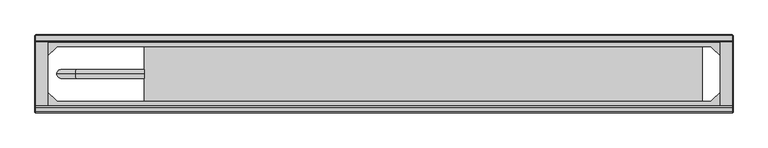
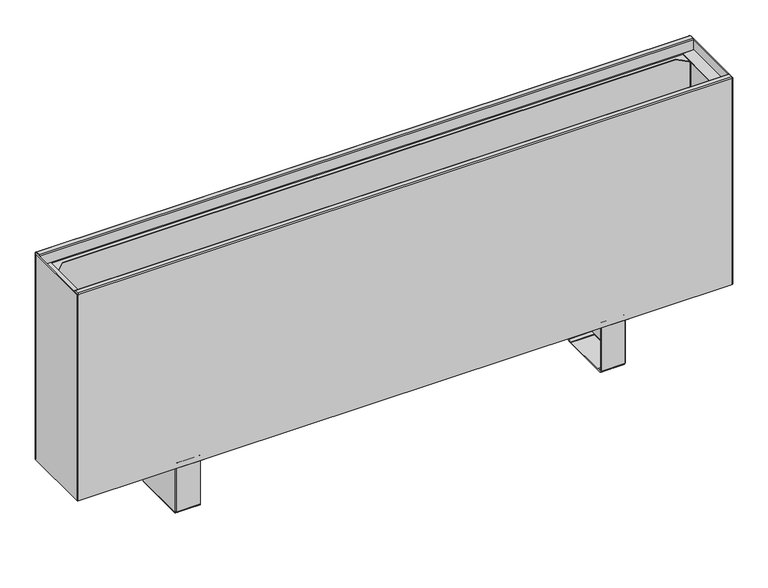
"""IFC4 building model written with IfcOpenShell, lengths in millimetres: proxy geometry, TECHNO_Конвектор напольный_Vita KPZ 135 : KPZ 135-400-2."""

from ifc_helpers import new_model, si_unit, point, frame, origin, place, context, project, spatial, polyline, circle_curve, ellipse_curve, trimmed, outline, extrude, source, transform, mapped, element, save
from ifc_brep_helpers import plane_surface, cylinder_surface, revolved_surface, advanced_brep


def mechanical_equipment_25f90fc9(model_context):
    return source(origin(), model_context, "Body", "SolidModel", [
        advanced_brep(
        [(409.7, -116.8, 1.5), (409.7, -114.5, 3.8), (409.7, -114.5, 4.9), (409.7, -116.0, 4.9), (409.7, -116.0, 3.8), (409.7, -116.8, 3.0), (409.7, -124.5, 3.0), (409.7, -124.5, 1.5), (409.7, -117.6, 1.5), (409.7, -114.5, 97.7), (409.7, -113.7, 98.5), (409.7, -101.0, 98.5), (409.7, -101.0, 100.0), (409.7, -113.7, 100.0), (409.7, -116.0, 97.7), (409.7, -116.0, 95.5), (409.7, -114.5, 95.5), (409.7, -220.5, 3.8), (409.7, -218.2, 1.5), (409.7, -217.4, 1.5), (409.7, -210.5, 1.5), (409.7, -210.5, 3.0), (409.7, -218.2, 3.0), (409.7, -219.0, 3.8), (409.7, -219.0, 4.9), (409.7, -220.5, 4.9), (409.7, -219.0, 97.7), (409.7, -221.3, 100.0), (409.7, -234.0, 100.0), (409.7, -234.0, 98.5), (409.7, -221.3, 98.5), (409.7, -220.5, 97.7), (409.7, -220.5, 95.5), (409.7, -219.0, 95.5), (367.0, -220.5, 97.7), (367.0, -221.3, 98.5), (367.0, -234.0, 98.5), (367.0, -234.0, 100.0), (367.0, -221.3, 100.0), (367.0, -219.0, 97.7), (367.0, -219.0, 3.8), (367.0, -218.2, 3.0), (367.0, -210.5, 3.0), (367.0, -210.5, 1.5), (367.0, -124.5, 1.5), (367.0, -124.5, 3.0), (367.0, -116.8, 3.0), (367.0, -116.0, 3.8), (367.0, -116.0, 97.7), (367.0, -113.7, 100.0), (367.0, -101.0, 100.0), (367.0, -101.0, 98.5), (367.0, -113.7, 98.5), (367.0, -114.5, 97.7), (367.0, -114.5, 3.8), (367.0, -116.8, 1.5), (367.0, -117.6, 1.5), (367.0, -117.6, 0.0), (367.0, -217.4, 0.0), (367.0, -217.4, 1.5), (367.0, -218.2, 1.5), (367.0, -220.5, 3.8), (410.5, -116.8, 95.5), (410.5, -218.2, 95.5), (412.0, -218.2, 95.5), (412.0, -116.8, 95.5), (412.0, -116.8, 4.9), (412.0, -117.6, 4.9), (410.5, -117.6, 4.9), (410.5, -116.8, 4.9), (410.5, -218.2, 4.9), (410.5, -217.4, 4.9), (412.0, -217.4, 4.9), (412.0, -218.2, 4.9), (410.5, -117.6, 2.3), (410.5, -217.4, 2.3), (412.0, -217.4, 2.3), (412.0, -117.6, 2.3), (409.7, -117.6, 0.0), (409.7, -217.4, 0.0)],
        [
            (0, 1, circle_curve(frame((409.7, -116.8, 3.8), z_axis=(1.0, 0.0, 0.0), x_axis=(0.0, -1.0, 0.0)), 2.3)),
            (1, 2),
            (2, 3),
            (3, 4),
            (4, 5, circle_curve(frame((409.7, -116.8, 3.8), z_axis=(-1.0, 0.0, 0.0), x_axis=(0.0, -1.0, 0.0)), 0.8)),
            (5, 6),
            (6, 7),
            (7, 8),
            (8, 0),
            (9, 10, circle_curve(frame((409.7, -113.7, 97.7), z_axis=(-1.0, 0.0, 0.0), x_axis=(0.0, -1.0, 0.0)), 0.8)),
            (10, 11),
            (11, 12),
            (12, 13),
            (13, 14, circle_curve(frame((409.7, -113.7, 97.7), z_axis=(1.0, 0.0, 0.0), x_axis=(0.0, -1.0, 0.0)), 2.3)),
            (14, 15),
            (15, 16),
            (16, 9),
            (17, 18, circle_curve(frame((409.7, -218.2, 3.8), z_axis=(1.0, 0.0, 0.0), x_axis=(0.0, -1.0, 0.0)), 2.3)),
            (18, 19),
            (19, 20),
            (20, 21),
            (21, 22),
            (22, 23, circle_curve(frame((409.7, -218.2, 3.8), z_axis=(-1.0, 0.0, 0.0), x_axis=(0.0, -1.0, 0.0)), 0.8)),
            (23, 24),
            (24, 25),
            (25, 17),
            (26, 27, circle_curve(frame((409.7, -221.3, 97.7), z_axis=(1.0, 0.0, 0.0), x_axis=(0.0, -1.0, 0.0)), 2.3)),
            (27, 28),
            (28, 29),
            (29, 30),
            (30, 31, circle_curve(frame((409.7, -221.3, 97.7), z_axis=(-1.0, 0.0, 0.0), x_axis=(0.0, -1.0, 0.0)), 0.8)),
            (31, 32),
            (32, 33),
            (33, 26),
            (34, 35, circle_curve(frame((367.0, -221.3, 97.7), z_axis=(1.0, 0.0, 0.0), x_axis=(0.0, -1.0, 0.0)), 0.8)),
            (35, 36),
            (36, 37),
            (37, 38),
            (38, 39, circle_curve(frame((367.0, -221.3, 97.7), z_axis=(-1.0, 0.0, 0.0), x_axis=(0.0, -1.0, 0.0)), 2.3)),
            (39, 40),
            (40, 41, circle_curve(frame((367.0, -218.2, 3.8), z_axis=(1.0, 0.0, 0.0), x_axis=(0.0, -1.0, 0.0)), 0.8)),
            (41, 42),
            (42, 43),
            (43, 44),
            (44, 45),
            (45, 46),
            (46, 47, circle_curve(frame((367.0, -116.8, 3.8), z_axis=(1.0, 0.0, 0.0), x_axis=(0.0, -1.0, 0.0)), 0.8)),
            (47, 48),
            (48, 49, circle_curve(frame((367.0, -113.7, 97.7), z_axis=(-1.0, 0.0, 0.0), x_axis=(0.0, -1.0, 0.0)), 2.3)),
            (49, 50),
            (50, 51),
            (51, 52),
            (52, 53, circle_curve(frame((367.0, -113.7, 97.7), z_axis=(1.0, 0.0, 0.0), x_axis=(0.0, -1.0, 0.0)), 0.8)),
            (53, 54),
            (54, 55, circle_curve(frame((367.0, -116.8, 3.8), z_axis=(-1.0, 0.0, 0.0), x_axis=(0.0, -1.0, 0.0)), 2.3)),
            (55, 56),
            (56, 57),
            (57, 58),
            (58, 59),
            (59, 60),
            (60, 61, circle_curve(frame((367.0, -218.2, 3.8), z_axis=(-1.0, 0.0, 0.0), x_axis=(0.0, -1.0, 0.0)), 2.3)),
            (61, 34),
            (30, 35),
            (34, 31),
            (29, 36),
            (28, 37),
            (27, 38),
            (26, 39),
            (33, 24),
            (23, 40),
            (22, 41),
            (5, 46),
            (45, 6),
            (4, 47),
            (3, 15),
            (14, 48),
            (13, 49),
            (12, 50),
            (11, 51),
            (10, 52),
            (9, 53),
            (16, 2),
            (1, 54),
            (0, 55),
            (8, 56),
            (17, 61),
            (60, 18),
            (25, 32),
            (21, 42),
            (20, 43),
            (59, 19),
            (44, 7),
            (15, 62, circle_curve(frame((409.7, -116.8, 95.5), z_axis=(0.0, 0.0, -1.0), x_axis=(-1.0, 0.0, 0.0)), 0.8)),
            (62, 63),
            (63, 33, circle_curve(frame((409.7, -218.2, 95.5), z_axis=(0.0, 0.0, -1.0), x_axis=(-1.0, 0.0, 0.0)), 0.8)),
            (32, 64, circle_curve(frame((409.7, -218.2, 95.5), z_axis=(0.0, 0.0, 1.0), x_axis=(-1.0, 0.0, 0.0)), 2.3)),
            (64, 65),
            (65, 16, circle_curve(frame((409.7, -116.8, 95.5), z_axis=(0.0, 0.0, 1.0), x_axis=(-1.0, 0.0, 0.0)), 2.3)),
            (2, 66, circle_curve(frame((409.7, -116.8, 4.9), z_axis=(0.0, 0.0, -1.0), x_axis=(-1.0, 0.0, 0.0)), 2.3)),
            (66, 67),
            (67, 68),
            (68, 69),
            (69, 3, circle_curve(frame((409.7, -116.8, 4.9), z_axis=(0.0, 0.0, 1.0), x_axis=(-1.0, 0.0, 0.0)), 0.8)),
            (24, 70, circle_curve(frame((409.7, -218.2, 4.9), z_axis=(0.0, 0.0, 1.0), x_axis=(-1.0, 0.0, 0.0)), 0.8)),
            (70, 71),
            (71, 72),
            (72, 73),
            (73, 25, circle_curve(frame((409.7, -218.2, 4.9), z_axis=(0.0, 0.0, -1.0), x_axis=(-1.0, 0.0, 0.0)), 2.3)),
            (69, 62),
            (68, 74),
            (74, 75),
            (75, 71),
            (70, 63),
            (64, 73),
            (72, 76),
            (76, 77),
            (77, 67),
            (66, 65),
            (8, 74, circle_curve(frame((409.7, -117.6, 2.3), z_axis=(0.0, -1.0, 0.0), x_axis=(-1.0, 0.0, 0.0)), 0.8)),
            (77, 78, circle_curve(frame((409.7, -117.6, 2.3), z_axis=(0.0, 1.0, 0.0), x_axis=(-1.0, 0.0, 0.0)), 2.3)),
            (78, 57),
            (58, 79),
            (79, 76, circle_curve(frame((409.7, -217.4, 2.3), z_axis=(0.0, -1.0, 0.0), x_axis=(-1.0, 0.0, 0.0)), 2.3)),
            (75, 19, circle_curve(frame((409.7, -217.4, 2.3), z_axis=(0.0, 1.0, 0.0), x_axis=(-1.0, 0.0, 0.0)), 0.8)),
            (20, 7),
            (79, 78),
        ],
        [
            plane_surface(frame((409.7, -222.1, 97.7), z_axis=(1.0, 0.0, 0.0), x_axis=(0.0, 0.0, 1.0))),
            plane_surface(frame((367.0, -222.1, 97.7), z_axis=(-1.0, 0.0, 0.0), x_axis=(0.0, 0.0, -1.0))),
            revolved_surface(polyline([(409.7, -222.10000000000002, 97.7), (367.0, -222.10000000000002, 97.7)]), (409.7, -221.3, 97.7), (1.0, 0.0, 0.0)),
            plane_surface(frame((367.0, -221.3, 98.5), z_axis=(0.0, 0.0, -1.0), x_axis=(1.0, 0.0, 0.0))),
            plane_surface(frame((367.0, -234.0, 98.5), z_axis=(0.0, -1.0, 0.0), x_axis=(1.0, 0.0, 0.0))),
            plane_surface(frame((367.0, -234.0, 100.0), z_axis=(0.0, 0.0, 1.0), x_axis=(1.0, 0.0, 0.0))),
            cylinder_surface(frame((409.7, -221.3, 97.7), z_axis=(-1.0, 0.0, 0.0), x_axis=(0.0, -1.0, 0.0)), 2.3),
            plane_surface(frame((367.0, -219.0, 97.7), z_axis=(0.0, 1.0, 0.0), x_axis=(1.0, 0.0, 0.0))),
            revolved_surface(polyline([(409.7, -219.0, 3.8), (367.0, -219.0, 3.8)]), (409.7, -218.2, 3.8), (1.0, 0.0, 0.0)),
            plane_surface(frame((367.0, -124.5, 3.0), z_axis=(0.0, 0.0, 1.0), x_axis=(1.0, 0.0, 0.0))),
            revolved_surface(polyline([(409.7, -117.6, 3.8), (367.0, -117.6, 3.8)]), (412.0, -116.8, 3.8), (1.0, 0.0, 0.0)),
            plane_surface(frame((367.0, -116.0, 3.8), z_axis=(0.0, -1.0, 0.0), x_axis=(1.0, 0.0, 0.0))),
            cylinder_surface(frame((412.0, -113.7, 97.7), z_axis=(-1.0, 0.0, 0.0), x_axis=(0.0, -1.0, 0.0)), 2.3),
            plane_surface(frame((367.0, -113.7, 100.0), z_axis=(0.0, 0.0, 1.0), x_axis=(1.0, 0.0, 0.0))),
            plane_surface(frame((367.0, -101.0, 100.0), z_axis=(0.0, 1.0, 0.0), x_axis=(1.0, 0.0, 0.0))),
            plane_surface(frame((367.0, -101.0, 98.5), z_axis=(0.0, 0.0, -1.0), x_axis=(1.0, 0.0, 0.0))),
            revolved_surface(polyline([(409.7, -114.5, 97.7), (367.0, -114.5, 97.7)]), (412.0, -113.7, 97.7), (1.0, 0.0, 0.0)),
            plane_surface(frame((367.0, -114.5, 97.7), z_axis=(0.0, 1.0, 0.0), x_axis=(1.0, 0.0, 0.0))),
            cylinder_surface(frame((412.0, -116.8, 3.8), z_axis=(-1.0, 0.0, 0.0), x_axis=(0.0, -1.0, 0.0)), 2.3),
            plane_surface(frame((367.0, -116.8, 1.5), z_axis=(0.0, 0.0, -1.0), x_axis=(1.0, 0.0, 0.0))),
            cylinder_surface(frame((409.7, -218.2, 3.8), z_axis=(-1.0, 0.0, 0.0), x_axis=(0.0, -1.0, 0.0)), 2.3),
            plane_surface(frame((367.0, -220.5, 3.8), z_axis=(0.0, -1.0, 0.0), x_axis=(1.0, 0.0, 0.0))),
            plane_surface(frame((367.0, -218.2, 3.0), z_axis=(0.0, 0.0, 1.0), x_axis=(1.0, 0.0, 0.0))),
            plane_surface(frame((367.0, -210.5, 3.0), z_axis=(0.0, 1.0, 0.0), x_axis=(1.0, 0.0, 0.0))),
            plane_surface(frame((367.0, -210.5, 1.5), z_axis=(0.0, 0.0, -1.0), x_axis=(1.0, 0.0, 0.0))),
            plane_surface(frame((367.0, -124.5, 1.5), z_axis=(0.0, -1.0, 0.0), x_axis=(1.0, 0.0, 0.0))),
            plane_surface(frame((409.7, -116.0, 95.5), z_axis=(0.0, 0.0, 1.0), x_axis=(0.0, -1.0, 0.0))),
            plane_surface(frame((409.7, -116.0, 4.9), z_axis=(0.0, 0.0, -1.0), x_axis=(0.0, 1.0, 0.0))),
            revolved_surface(polyline([(408.9, -116.8, 4.9), (408.9, -116.8, 95.5)]), (409.7, -116.8, 4.9), (0.0, 0.0, -1.0)),
            plane_surface(frame((410.5, -116.8, 95.5), z_axis=(-1.0, 0.0, 0.0), x_axis=(0.0, 0.0, -1.0))),
            plane_surface(frame((412.0, -117.6, 95.5), z_axis=(1.0, 0.0, 0.0), x_axis=(0.0, 0.0, -1.0))),
            cylinder_surface(frame((409.7, -116.8, 4.9), z_axis=(0.0, 0.0, 1.0), x_axis=(-1.0, 0.0, 0.0)), 2.3),
            cylinder_surface(frame((409.7, -218.2, 0.0), z_axis=(0.0, 0.0, 1.0), x_axis=(-1.0, 0.0, 0.0)), 2.3),
            revolved_surface(polyline([(408.9, -218.2, 4.9), (408.9, -218.2, 95.5)]), (409.7, -218.2, 0.0), (0.0, 0.0, -1.0)),
            plane_surface(frame((367.0, -117.6, 1.5), z_axis=(0.0, 1.0, 0.0), x_axis=(0.0, 0.0, 1.0))),
            plane_surface(frame((367.0, -217.4, 1.5), z_axis=(0.0, -1.0, 0.0), x_axis=(0.0, 0.0, -1.0))),
            plane_surface(frame((367.0, -117.6, 1.5), z_axis=(0.0, 0.0, 1.0), x_axis=(0.0, -1.0, 0.0))),
            revolved_surface(polyline([(408.9, -217.4, 2.3), (408.9, -117.6, 2.3)]), (409.7, -217.4, 2.3), (0.0, -1.0, 0.0)),
            cylinder_surface(frame((409.7, -217.4, 2.3), z_axis=(0.0, 1.0, 0.0), x_axis=(-1.0, 0.0, 0.0)), 2.3),
            plane_surface(frame((409.7, -117.6, 0.0), z_axis=(0.0, 0.0, -1.0), x_axis=(0.0, -1.0, 0.0))),
        ],
        [
            (0, [[1, 2, 3, 4, 5, 6, 7, 8, 9]]),
            (0, [[10, 11, 12, 13, 14, 15, 16, 17]]),
            (0, [[18, 19, 20, 21, 22, 23, 24, 25, 26]]),
            (0, [[27, 28, 29, 30, 31, 32, 33, 34]]),
            (1, [[35, 36, 37, 38, 39, 40, 41, 42, 43, 44, 45, 46, 47, 48, 49, 50, 51, 52, 53, 54, 55, 56, 57, 58, 59, 60, 61, 62]]),
            (2, [[-31, 63, -35, 64]]),
            (3, [[-30, 65, -36, -63]]),
            (4, [[-29, 66, -37, -65]]),
            (5, [[-28, 67, -38, -66]]),
            (6, [[-27, 68, -39, -67]]),
            (7, [[-40, -68, -34, 69, -24, 70]]),
            (8, [[-23, 71, -41, -70]]),
            (9, [[-6, 72, -46, 73]]),
            (10, [[-5, 74, -47, -72]]),
            (11, [[-48, -74, -4, 75, -15, 76]]),
            (12, [[-14, 77, -49, -76]]),
            (13, [[-13, 78, -50, -77]]),
            (14, [[-12, 79, -51, -78]]),
            (15, [[-11, 80, -52, -79]]),
            (16, [[-10, 81, -53, -80]]),
            (17, [[-54, -81, -17, 82, -2, 83]]),
            (18, [[-1, 84, -55, -83]]),
            (19, [[-84, -9, 85, -56]]),
            (20, [[-18, 86, -61, 87]]),
            (21, [[-62, -86, -26, 88, -32, -64]]),
            (22, [[-22, 89, -42, -71]]),
            (23, [[-21, 90, -43, -89]]),
            (24, [[-87, -60, 91, -19]]),
            (25, [[-7, -73, -45, 92]]),
            (26, [[93, 94, 95, -33, 96, 97, 98, -16]]),
            (27, [[99, 100, 101, 102, 103, -3]]),
            (27, [[104, 105, 106, 107, 108, -25]]),
            (28, [[-93, -75, -103, 109]]),
            (29, [[-94, -109, -102, 110, 111, 112, -105, 113]]),
            (30, [[-97, 114, -107, 115, 116, 117, -100, 118]]),
            (31, [[-98, -118, -99, -82]]),
            (32, [[-96, -88, -108, -114]]),
            (33, [[-95, -113, -104, -69]]),
            (34, [[-57, -85, 119, -110, -101, -117, 120, 121]]),
            (35, [[122, 123, -115, -106, -112, 124, -91, -59]]),
            (36, [[125, -92, -44, -90]]),
            (37, [[-119, -8, -125, -20, -124, -111]]),
            (38, [[-120, -116, -123, 126]]),
            (39, [[-121, -126, -122, -58]]),
        ],
    ),
        advanced_brep(
        [(-409.7, -218.2, 1.5), (-409.7, -220.5, 3.8), (-409.7, -220.5, 4.9), (-409.7, -219.0, 4.9), (-409.7, -219.0, 3.8), (-409.7, -218.2, 3.0), (-409.7, -210.5, 3.0), (-409.7, -210.5, 1.5), (-409.7, -217.4, 1.5), (-409.7, -220.5, 97.7), (-409.7, -221.3, 98.5), (-409.7, -234.0, 98.5), (-409.7, -234.0, 100.0), (-409.7, -221.3, 100.0), (-409.7, -219.0, 97.7), (-409.7, -219.0, 95.5), (-409.7, -220.5, 95.5), (-409.7, -114.5, 3.8), (-409.7, -116.8, 1.5), (-409.7, -117.6, 1.5), (-409.7, -124.5, 1.5), (-409.7, -124.5, 3.0), (-409.7, -116.8, 3.0), (-409.7, -116.0, 3.8), (-409.7, -116.0, 4.9), (-409.7, -114.5, 4.9), (-409.7, -116.0, 97.7), (-409.7, -113.7, 100.0), (-409.7, -101.0, 100.0), (-409.7, -101.0, 98.5), (-409.7, -113.7, 98.5), (-409.7, -114.5, 97.7), (-409.7, -114.5, 95.5), (-409.7, -116.0, 95.5), (-367.0, -114.5, 97.7), (-367.0, -113.7, 98.5), (-367.0, -101.0, 98.5), (-367.0, -101.0, 100.0), (-367.0, -113.7, 100.0), (-367.0, -116.0, 97.7), (-367.0, -116.0, 3.8), (-367.0, -116.8, 3.0), (-367.0, -124.5, 3.0), (-367.0, -124.5, 1.5), (-367.0, -210.5, 1.5), (-367.0, -210.5, 3.0), (-367.0, -218.2, 3.0), (-367.0, -219.0, 3.8), (-367.0, -219.0, 97.7), (-367.0, -221.3, 100.0), (-367.0, -234.0, 100.0), (-367.0, -234.0, 98.5), (-367.0, -221.3, 98.5), (-367.0, -220.5, 97.7), (-367.0, -220.5, 3.8), (-367.0, -218.2, 1.5), (-367.0, -217.4, 1.5), (-367.0, -217.4, 0.0), (-367.0, -117.6, 0.0), (-367.0, -117.6, 1.5), (-367.0, -116.8, 1.5), (-367.0, -114.5, 3.8), (-410.5, -218.2, 95.5), (-410.5, -116.8, 95.5), (-412.0, -116.8, 95.5), (-412.0, -218.2, 95.5), (-412.0, -218.2, 4.9), (-412.0, -217.4, 4.9), (-410.5, -217.4, 4.9), (-410.5, -218.2, 4.9), (-410.5, -116.8, 4.9), (-410.5, -117.6, 4.9), (-412.0, -117.6, 4.9), (-412.0, -116.8, 4.9), (-410.5, -217.4, 2.3), (-410.5, -117.6, 2.3), (-412.0, -117.6, 2.3), (-412.0, -217.4, 2.3), (-409.7, -217.4, 0.0), (-409.7, -117.6, 0.0)],
        [
            (0, 1, circle_curve(frame((-409.7, -218.2, 3.8), z_axis=(-1.0, 0.0, 0.0), x_axis=(0.0, 1.0, 0.0)), 2.3)),
            (1, 2),
            (2, 3),
            (3, 4),
            (4, 5, circle_curve(frame((-409.7, -218.2, 3.8), z_axis=(1.0, 0.0, 0.0), x_axis=(0.0, 1.0, 0.0)), 0.8)),
            (5, 6),
            (6, 7),
            (7, 8),
            (8, 0),
            (9, 10, circle_curve(frame((-409.7, -221.3, 97.7), z_axis=(1.0, 0.0, 0.0), x_axis=(0.0, 1.0, 0.0)), 0.8)),
            (10, 11),
            (11, 12),
            (12, 13),
            (13, 14, circle_curve(frame((-409.7, -221.3, 97.7), z_axis=(-1.0, 0.0, 0.0), x_axis=(0.0, 1.0, 0.0)), 2.3)),
            (14, 15),
            (15, 16),
            (16, 9),
            (17, 18, circle_curve(frame((-409.7, -116.8, 3.8), z_axis=(-1.0, 0.0, 0.0), x_axis=(0.0, 1.0, 0.0)), 2.3)),
            (18, 19),
            (19, 20),
            (20, 21),
            (21, 22),
            (22, 23, circle_curve(frame((-409.7, -116.8, 3.8), z_axis=(1.0, 0.0, 0.0), x_axis=(0.0, 1.0, 0.0)), 0.8)),
            (23, 24),
            (24, 25),
            (25, 17),
            (26, 27, circle_curve(frame((-409.7, -113.7, 97.7), z_axis=(-1.0, 0.0, 0.0), x_axis=(0.0, 1.0, 0.0)), 2.3)),
            (27, 28),
            (28, 29),
            (29, 30),
            (30, 31, circle_curve(frame((-409.7, -113.7, 97.7), z_axis=(1.0, 0.0, 0.0), x_axis=(0.0, 1.0, 0.0)), 0.8)),
            (31, 32),
            (32, 33),
            (33, 26),
            (34, 35, circle_curve(frame((-367.0, -113.7, 97.7), z_axis=(-1.0, 0.0, 0.0), x_axis=(0.0, 1.0, 0.0)), 0.8)),
            (35, 36),
            (36, 37),
            (37, 38),
            (38, 39, circle_curve(frame((-367.0, -113.7, 97.7), z_axis=(1.0, 0.0, 0.0), x_axis=(0.0, 1.0, 0.0)), 2.3)),
            (39, 40),
            (40, 41, circle_curve(frame((-367.0, -116.8, 3.8), z_axis=(-1.0, 0.0, 0.0), x_axis=(0.0, 1.0, 0.0)), 0.8)),
            (41, 42),
            (42, 43),
            (43, 44),
            (44, 45),
            (45, 46),
            (46, 47, circle_curve(frame((-367.0, -218.2, 3.8), z_axis=(-1.0, 0.0, 0.0), x_axis=(0.0, 1.0, 0.0)), 0.8)),
            (47, 48),
            (48, 49, circle_curve(frame((-367.0, -221.3, 97.7), z_axis=(1.0, 0.0, 0.0), x_axis=(0.0, 1.0, 0.0)), 2.3)),
            (49, 50),
            (50, 51),
            (51, 52),
            (52, 53, circle_curve(frame((-367.0, -221.3, 97.7), z_axis=(-1.0, 0.0, 0.0), x_axis=(0.0, 1.0, 0.0)), 0.8)),
            (53, 54),
            (54, 55, circle_curve(frame((-367.0, -218.2, 3.8), z_axis=(1.0, 0.0, 0.0), x_axis=(0.0, 1.0, 0.0)), 2.3)),
            (55, 56),
            (56, 57),
            (57, 58),
            (58, 59),
            (59, 60),
            (60, 61, circle_curve(frame((-367.0, -116.8, 3.8), z_axis=(1.0, 0.0, 0.0), x_axis=(0.0, 1.0, 0.0)), 2.3)),
            (61, 34),
            (30, 35),
            (34, 31),
            (29, 36),
            (28, 37),
            (27, 38),
            (26, 39),
            (33, 24),
            (23, 40),
            (22, 41),
            (5, 46),
            (45, 6),
            (4, 47),
            (3, 15),
            (14, 48),
            (13, 49),
            (12, 50),
            (11, 51),
            (10, 52),
            (9, 53),
            (16, 2),
            (1, 54),
            (0, 55),
            (8, 56),
            (17, 61),
            (60, 18),
            (25, 32),
            (21, 42),
            (20, 43),
            (59, 19),
            (44, 7),
            (15, 62, circle_curve(frame((-409.7, -218.2, 95.5), z_axis=(0.0, 0.0, -1.0), x_axis=(1.0, 0.0, 0.0)), 0.8)),
            (62, 63),
            (63, 33, circle_curve(frame((-409.7, -116.8, 95.5), z_axis=(0.0, 0.0, -1.0), x_axis=(1.0, 0.0, 0.0)), 0.8)),
            (32, 64, circle_curve(frame((-409.7, -116.8, 95.5), z_axis=(0.0, 0.0, 1.0), x_axis=(1.0, 0.0, 0.0)), 2.3)),
            (64, 65),
            (65, 16, circle_curve(frame((-409.7, -218.2, 95.5), z_axis=(0.0, 0.0, 1.0), x_axis=(1.0, 0.0, 0.0)), 2.3)),
            (2, 66, circle_curve(frame((-409.7, -218.2, 4.9), z_axis=(0.0, 0.0, -1.0), x_axis=(1.0, 0.0, 0.0)), 2.3)),
            (66, 67),
            (67, 68),
            (68, 69),
            (69, 3, circle_curve(frame((-409.7, -218.2, 4.9), z_axis=(0.0, 0.0, 1.0), x_axis=(1.0, 0.0, 0.0)), 0.8)),
            (24, 70, circle_curve(frame((-409.7, -116.8, 4.9), z_axis=(0.0, 0.0, 1.0), x_axis=(1.0, 0.0, 0.0)), 0.8)),
            (70, 71),
            (71, 72),
            (72, 73),
            (73, 25, circle_curve(frame((-409.7, -116.8, 4.9), z_axis=(0.0, 0.0, -1.0), x_axis=(1.0, 0.0, 0.0)), 2.3)),
            (69, 62),
            (68, 74),
            (74, 75),
            (75, 71),
            (70, 63),
            (64, 73),
            (72, 76),
            (76, 77),
            (77, 67),
            (66, 65),
            (8, 74, circle_curve(frame((-409.7, -217.4, 2.3), z_axis=(0.0, 1.0, 0.0), x_axis=(1.0, 0.0, 0.0)), 0.8)),
            (77, 78, circle_curve(frame((-409.7, -217.4, 2.3), z_axis=(0.0, -1.0, 0.0), x_axis=(1.0, 0.0, 0.0)), 2.3)),
            (78, 57),
            (58, 79),
            (79, 76, circle_curve(frame((-409.7, -117.6, 2.3), z_axis=(0.0, 1.0, 0.0), x_axis=(1.0, 0.0, 0.0)), 2.3)),
            (75, 19, circle_curve(frame((-409.7, -117.6, 2.3), z_axis=(0.0, -1.0, 0.0), x_axis=(1.0, 0.0, 0.0)), 0.8)),
            (20, 7),
            (79, 78),
        ],
        [
            plane_surface(frame((-409.7, -112.9, 97.7), z_axis=(-1.0, 0.0, 0.0), x_axis=(0.0, 0.0, 1.0))),
            plane_surface(frame((-367.0, -112.9, 97.7), z_axis=(1.0, 0.0, 0.0), x_axis=(0.0, 0.0, -1.0))),
            revolved_surface(polyline([(-409.7, -112.9, 97.7), (-367.0, -112.9, 97.7)]), (-409.7, -113.7, 97.7), (-1.0, 0.0, 0.0)),
            plane_surface(frame((-367.0, -113.7, 98.5), z_axis=(0.0, 0.0, -1.0), x_axis=(-1.0, 0.0, 0.0))),
            plane_surface(frame((-367.0, -101.0, 98.5), z_axis=(0.0, 1.0, 0.0), x_axis=(-1.0, 0.0, 0.0))),
            plane_surface(frame((-367.0, -101.0, 100.0), z_axis=(0.0, 0.0, 1.0), x_axis=(-1.0, 0.0, 0.0))),
            cylinder_surface(frame((-409.7, -113.7, 97.7), z_axis=(1.0, 0.0, 0.0), x_axis=(0.0, 1.0, 0.0)), 2.3),
            plane_surface(frame((-367.0, -116.0, 97.7), z_axis=(0.0, -1.0, 0.0), x_axis=(-1.0, 0.0, 0.0))),
            revolved_surface(polyline([(-409.7, -116.0, 3.8), (-367.0, -116.0, 3.8)]), (-409.7, -116.8, 3.8), (-1.0, 0.0, 0.0)),
            plane_surface(frame((-367.0, -210.5, 3.0), z_axis=(0.0, 0.0, 1.0), x_axis=(-1.0, 0.0, 0.0))),
            revolved_surface(polyline([(-409.7, -217.39999999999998, 3.8), (-367.0, -217.39999999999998, 3.8)]), (-412.0, -218.2, 3.8), (-1.0, 0.0, 0.0)),
            plane_surface(frame((-367.0, -219.0, 3.8), z_axis=(0.0, 1.0, 0.0), x_axis=(-1.0, 0.0, 0.0))),
            cylinder_surface(frame((-412.0, -221.3, 97.7), z_axis=(1.0, 0.0, 0.0), x_axis=(0.0, 1.0, 0.0)), 2.3),
            plane_surface(frame((-367.0, -221.3, 100.0), z_axis=(0.0, 0.0, 1.0), x_axis=(-1.0, 0.0, 0.0))),
            plane_surface(frame((-367.0, -234.0, 100.0), z_axis=(0.0, -1.0, 0.0), x_axis=(-1.0, 0.0, 0.0))),
            plane_surface(frame((-367.0, -234.0, 98.5), z_axis=(0.0, 0.0, -1.0), x_axis=(-1.0, 0.0, 0.0))),
            revolved_surface(polyline([(-409.7, -220.5, 97.7), (-367.0, -220.5, 97.7)]), (-412.0, -221.3, 97.7), (-1.0, 0.0, 0.0)),
            plane_surface(frame((-367.0, -220.5, 97.7), z_axis=(0.0, -1.0, 0.0), x_axis=(-1.0, 0.0, 0.0))),
            cylinder_surface(frame((-412.0, -218.2, 3.8), z_axis=(1.0, 0.0, 0.0), x_axis=(0.0, 1.0, 0.0)), 2.3),
            plane_surface(frame((-367.0, -218.2, 1.5), z_axis=(0.0, 0.0, -1.0), x_axis=(-1.0, 0.0, 0.0))),
            cylinder_surface(frame((-409.7, -116.8, 3.8), z_axis=(1.0, 0.0, 0.0), x_axis=(0.0, 1.0, 0.0)), 2.3),
            plane_surface(frame((-367.0, -114.5, 3.8), z_axis=(0.0, 1.0, 0.0), x_axis=(-1.0, 0.0, 0.0))),
            plane_surface(frame((-367.0, -116.8, 3.0), z_axis=(0.0, 0.0, 1.0), x_axis=(-1.0, 0.0, 0.0))),
            plane_surface(frame((-367.0, -124.5, 3.0), z_axis=(0.0, -1.0, 0.0), x_axis=(-1.0, 0.0, 0.0))),
            plane_surface(frame((-367.0, -124.5, 1.5), z_axis=(0.0, 0.0, -1.0), x_axis=(-1.0, 0.0, 0.0))),
            plane_surface(frame((-367.0, -210.5, 1.5), z_axis=(0.0, 1.0, 0.0), x_axis=(-1.0, 0.0, 0.0))),
            plane_surface(frame((-409.7, -219.0, 95.5), z_axis=(0.0, 0.0, 1.0), x_axis=(0.0, 1.0, 0.0))),
            plane_surface(frame((-409.7, -219.0, 4.9), z_axis=(0.0, 0.0, -1.0), x_axis=(0.0, -1.0, 0.0))),
            revolved_surface(polyline([(-408.9, -218.2, 4.9), (-408.9, -218.2, 95.5)]), (-409.7, -218.2, 4.9), (0.0, 0.0, -1.0)),
            plane_surface(frame((-410.5, -218.2, 95.5), z_axis=(1.0, 0.0, 0.0), x_axis=(0.0, 0.0, -1.0))),
            plane_surface(frame((-412.0, -217.4, 95.5), z_axis=(-1.0, 0.0, 0.0), x_axis=(0.0, 0.0, -1.0))),
            cylinder_surface(frame((-409.7, -218.2, 4.9), z_axis=(0.0, 0.0, 1.0), x_axis=(1.0, 0.0, 0.0)), 2.3),
            cylinder_surface(frame((-409.7, -116.8, 0.0), z_axis=(0.0, 0.0, 1.0), x_axis=(1.0, 0.0, 0.0)), 2.3),
            revolved_surface(polyline([(-408.9, -116.8, 4.9), (-408.9, -116.8, 95.5)]), (-409.7, -116.8, 0.0), (0.0, 0.0, -1.0)),
            plane_surface(frame((-367.0, -217.4, 1.5), z_axis=(0.0, -1.0, 0.0), x_axis=(0.0, 0.0, 1.0))),
            plane_surface(frame((-367.0, -117.6, 1.5), z_axis=(0.0, 1.0, 0.0), x_axis=(0.0, 0.0, -1.0))),
            plane_surface(frame((-367.0, -217.4, 1.5), z_axis=(0.0, 0.0, 1.0), x_axis=(0.0, 1.0, 0.0))),
            revolved_surface(polyline([(-408.9, -117.6, 2.3), (-408.9, -217.4, 2.3)]), (-409.7, -117.6, 2.3), (0.0, 1.0, 0.0)),
            cylinder_surface(frame((-409.7, -117.6, 2.3), z_axis=(0.0, -1.0, 0.0), x_axis=(1.0, 0.0, 0.0)), 2.3),
            plane_surface(frame((-409.7, -217.4, 0.0), z_axis=(0.0, 0.0, -1.0), x_axis=(0.0, 1.0, 0.0))),
        ],
        [
            (0, [[1, 2, 3, 4, 5, 6, 7, 8, 9]]),
            (0, [[10, 11, 12, 13, 14, 15, 16, 17]]),
            (0, [[18, 19, 20, 21, 22, 23, 24, 25, 26]]),
            (0, [[27, 28, 29, 30, 31, 32, 33, 34]]),
            (1, [[35, 36, 37, 38, 39, 40, 41, 42, 43, 44, 45, 46, 47, 48, 49, 50, 51, 52, 53, 54, 55, 56, 57, 58, 59, 60, 61, 62]]),
            (2, [[-31, 63, -35, 64]]),
            (3, [[-30, 65, -36, -63]]),
            (4, [[-29, 66, -37, -65]]),
            (5, [[-28, 67, -38, -66]]),
            (6, [[-27, 68, -39, -67]]),
            (7, [[-40, -68, -34, 69, -24, 70]]),
            (8, [[-23, 71, -41, -70]]),
            (9, [[-6, 72, -46, 73]]),
            (10, [[-5, 74, -47, -72]]),
            (11, [[-48, -74, -4, 75, -15, 76]]),
            (12, [[-14, 77, -49, -76]]),
            (13, [[-13, 78, -50, -77]]),
            (14, [[-12, 79, -51, -78]]),
            (15, [[-11, 80, -52, -79]]),
            (16, [[-10, 81, -53, -80]]),
            (17, [[-54, -81, -17, 82, -2, 83]]),
            (18, [[-1, 84, -55, -83]]),
            (19, [[-84, -9, 85, -56]]),
            (20, [[-18, 86, -61, 87]]),
            (21, [[-62, -86, -26, 88, -32, -64]]),
            (22, [[-22, 89, -42, -71]]),
            (23, [[-21, 90, -43, -89]]),
            (24, [[-87, -60, 91, -19]]),
            (25, [[-7, -73, -45, 92]]),
            (26, [[93, 94, 95, -33, 96, 97, 98, -16]]),
            (27, [[99, 100, 101, 102, 103, -3]]),
            (27, [[104, 105, 106, 107, 108, -25]]),
            (28, [[-93, -75, -103, 109]]),
            (29, [[-94, -109, -102, 110, 111, 112, -105, 113]]),
            (30, [[-97, 114, -107, 115, 116, 117, -100, 118]]),
            (31, [[-98, -118, -99, -82]]),
            (32, [[-96, -88, -108, -114]]),
            (33, [[-95, -113, -104, -69]]),
            (34, [[-57, -85, 119, -110, -101, -117, 120, 121]]),
            (35, [[122, 123, -115, -106, -112, 124, -91, -59]]),
            (36, [[125, -92, -44, -90]]),
            (37, [[-119, -8, -125, -20, -124, -111]]),
            (38, [[-120, -116, -123, 126]]),
            (39, [[-121, -126, -122, -58]]),
        ],
    ),
        advanced_brep(
        [(-412.0, -167.5, 186.5), (-412.0, -167.5, 171.5), (-530.0, -167.5, 186.5), (-530.0, -167.5, 171.5), (-547.5, -167.5, 154.0), (-562.5, -167.5, 154.0), (-562.5, -167.5, 100.0), (-547.5, -167.5, 100.0)],
        [
            (0, 1, circle_curve(frame((-412.0, -167.5, 179.0), z_axis=(1.0, 0.0, 0.0), x_axis=(0.0, 0.0, -1.0)), 7.5)),
            (1, 0, circle_curve(frame((-412.0, -167.5, 179.0), z_axis=(1.0, 0.0, 0.0), x_axis=(0.0, 0.0, -1.0)), 7.5)),
            (0, 2),
            (2, 3, circle_curve(frame((-530.0, -167.5, 179.0), z_axis=(1.0, 0.0, 0.0), x_axis=(0.0, 0.0, -1.0)), 7.5)),
            (3, 1),
            (3, 2, circle_curve(frame((-530.0, -167.5, 179.0), z_axis=(1.0, 0.0, 0.0), x_axis=(0.0, 0.0, -1.0)), 7.5)),
            (4, 3, circle_curve(frame((-530.0, -167.5, 154.0), z_axis=(0.0, 1.0, 0.0), x_axis=(0.0, 0.0, 1.0)), 17.5)),
            (2, 5, circle_curve(frame((-530.0, -167.5, 154.0), z_axis=(0.0, -1.0, 0.0), x_axis=(0.0, 0.0, 1.0)), 32.5)),
            (5, 4, circle_curve(frame((-555.0, -167.5, 154.0), z_axis=(0.0, 0.0, 1.0), x_axis=(1.0, 0.0, 0.0)), 7.5)),
            (4, 5, circle_curve(frame((-555.0, -167.5, 154.0), z_axis=(0.0, 0.0, 1.0), x_axis=(1.0, 0.0, 0.0)), 7.5)),
            (6, 7, circle_curve(frame((-555.0, -167.5, 100.0), z_axis=(0.0, 0.0, -1.0), x_axis=(1.0, 0.0, 0.0)), 7.5)),
            (7, 6, circle_curve(frame((-555.0, -167.5, 100.0), z_axis=(0.0, 0.0, -1.0), x_axis=(1.0, 0.0, 0.0)), 7.5)),
            (5, 6),
            (7, 4),
        ],
        [
            plane_surface(frame((-412.0, -167.5, 179.0), z_axis=(1.0, 0.0, 0.0), x_axis=(0.0, -1.0, 0.0))),
            cylinder_surface(frame((-412.0, -167.5, 179.0), z_axis=(1.0, 0.0, 0.0), x_axis=(0.0, 0.0, -1.0)), 7.5),
            revolved_surface(trimmed(ellipse_curve(frame((-530.0, -167.5, 179.0), z_axis=(1.0, 0.0, 0.0), x_axis=(0.0, 0.0, -1.0)), 7.5, 7.5), [point((-530.0, -167.5, 186.5))], [point((-530.0, -167.5, 171.5))], True, "CARTESIAN"), (-530.0, -167.5, 154.0), (0.0, -1.0, 0.0)),
            revolved_surface(trimmed(ellipse_curve(frame((-530.0, -167.5, 179.0), z_axis=(1.0, 0.0, 0.0), x_axis=(0.0, 0.0, -1.0)), 7.5, 7.5), [point((-530.0, -167.5, 171.5))], [point((-530.0, -167.5, 186.5))], True, "CARTESIAN"), (-530.0, -167.5, 154.0), (0.0, -1.0, 0.0)),
            plane_surface(frame((-555.0, -167.5, 100.0), z_axis=(0.0, 0.0, -1.0), x_axis=(0.0, -1.0, 0.0))),
            cylinder_surface(frame((-555.0, -167.5, 154.0), z_axis=(0.0, 0.0, 1.0), x_axis=(1.0, 0.0, 0.0)), 7.5),
        ],
        [
            (0, [[1, 2]]),
            (1, [[-1, 3, 4, 5]]),
            (1, [[-2, -5, 6, -3]]),
            (2, [[7, -4, 8, 9]]),
            (3, [[-8, -6, -7, 10]]),
            (4, [[11, 12]]),
            (5, [[-9, 13, -12, 14]]),
            (5, [[-10, -14, -11, -13]]),
        ],
    ),
        advanced_brep(
        [(-412.0, -167.5, 136.5), (-412.0, -167.5, 121.5), (-512.5, -167.5, 136.5), (-497.5, -167.5, 121.5), (-512.5, -167.5, 100.0), (-497.5, -167.5, 100.0)],
        [
            (0, 1, circle_curve(frame((-412.0, -167.5, 129.0), z_axis=(1.0, 0.0, 0.0), x_axis=(0.0, 0.0, -1.0)), 7.5)),
            (1, 0, circle_curve(frame((-412.0, -167.5, 129.0), z_axis=(1.0, 0.0, 0.0), x_axis=(0.0, 0.0, -1.0)), 7.5)),
            (0, 2),
            (2, 3, ellipse_curve(frame((-505.0, -167.5, 129.0), z_axis=(0.7071067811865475, 0.0, 0.7071067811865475), x_axis=(0.7071067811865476, 0.0, -0.7071067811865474)), 10.6066017, 7.5)),
            (3, 1),
            (3, 2, ellipse_curve(frame((-505.0, -167.5, 129.0), z_axis=(0.7071067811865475, 0.0, 0.7071067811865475), x_axis=(0.7071067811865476, 0.0, -0.7071067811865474)), 10.6066017, 7.5)),
            (4, 5, circle_curve(frame((-505.0, -167.5, 100.0), z_axis=(0.0, 0.0, -1.0), x_axis=(1.0, 0.0, 0.0)), 7.5)),
            (5, 4, circle_curve(frame((-505.0, -167.5, 100.0), z_axis=(0.0, 0.0, -1.0), x_axis=(1.0, 0.0, 0.0)), 7.5)),
            (2, 4),
            (5, 3),
        ],
        [
            plane_surface(frame((-412.0, -167.5, 129.0), z_axis=(1.0, 0.0, 0.0), x_axis=(0.0, -1.0, 0.0))),
            cylinder_surface(frame((-412.0, -167.5, 129.0), z_axis=(1.0, 0.0, 0.0), x_axis=(0.0, 0.0, -1.0)), 7.5),
            plane_surface(frame((-505.0, -167.5, 100.0), z_axis=(0.0, 0.0, -1.0), x_axis=(0.0, -1.0, 0.0))),
            cylinder_surface(frame((-505.0, -167.5, 129.0), z_axis=(0.0, 0.0, 1.0), x_axis=(1.0, 0.0, 0.0)), 7.5),
        ],
        [
            (0, [[1, 2]]),
            (1, [[-1, 3, 4, 5]]),
            (1, [[-2, -5, 6, -3]]),
            (2, [[7, 8]]),
            (3, [[-4, 9, -8, 10]]),
            (3, [[-6, -10, -7, -9]]),
        ],
    ),
        extrude(outline(polyline([(547.0, -117.5), (547.0, -217.5), (-412.0, -217.5), (-412.0, -117.5), (547.0, -117.5)])), frame((0.0, 0.0, 103.87), z_axis=(0.0, 0.0, 1.0), x_axis=(1.0, 0.0, 0.0)), (0.0, 0.0, 1.0), 50.0),
        extrude(outline(polyline([(-585.5004, -102.0), (-585.5004, -233.0), (-599.0, -233.0), (-599.0, -102.0), (-585.5004, -102.0)])), frame((0.0, 0.0, 101.83), z_axis=(0.0, 0.0, 1.0), x_axis=(1.0, 0.0, 0.0)), (0.0, 0.0, 1.0), 1.0002),
        extrude(outline(polyline([(585.5004, -102.0), (599.0, -102.0), (599.0, -233.0), (585.5004, -233.0), (585.5004, -102.0)])), frame((0.0, 0.0, 101.83), z_axis=(0.0, 0.0, 1.0), x_axis=(1.0, 0.0, 0.0)), (0.0, 0.0, 1.0), 1.0002),
        extrude(outline(polyline([(-599.0, -222.2), (-599.0, -112.8), (-578.0, -112.8), (-578.0, -222.2), (-599.0, -222.2)])), frame((0.0, 0.0, 478.83), z_axis=(0.0, 0.0, 1.0), x_axis=(1.0, 0.0, 0.0)), (0.0, 0.0, 1.0), 1.0002),
        extrude(outline(polyline([(599.0, -222.2), (578.0, -222.2), (578.0, -112.8), (599.0, -112.8), (599.0, -222.2)])), frame((0.0, 0.0, 478.83), z_axis=(0.0, 0.0, 1.0), x_axis=(1.0, 0.0, 0.0)), (0.0, 0.0, 1.0), 1.0002),
        advanced_brep(
        [(-598.2, -101.8, 500.83), (-598.2, -100.0, 499.03), (-598.2, -101.0, 499.03), (-598.2, -101.0, 477.83), (-598.2, -138.5, 477.83), (-598.2, -138.5, 478.83), (-598.2, -112.8, 478.83), (-598.2, -112.0, 479.63), (-598.2, -112.0, 499.03), (-598.2, -110.2, 500.83), (-598.2, -233.2, 500.83), (-598.2, -224.8, 500.83), (-598.2, -223.0, 499.03), (-598.2, -223.0, 479.63), (-598.2, -222.2, 478.83), (-598.2, -196.5, 478.83), (-598.2, -196.5, 477.83), (-598.2, -234.0, 477.83), (-598.2, -234.0, 499.03), (-598.2, -235.0, 499.03), (598.2, -101.8, 500.83), (598.2, -110.2, 500.83), (598.2, -112.0, 499.03), (598.2, -112.0, 479.63), (598.2, -112.8, 478.83), (598.2, -138.5, 478.83), (598.2, -138.5, 477.83), (598.2, -101.0, 477.83), (598.2, -101.0, 499.03), (598.2, -100.0, 499.03), (598.2, -233.2, 500.83), (598.2, -235.0, 499.03), (598.2, -234.0, 499.03), (598.2, -234.0, 477.83), (598.2, -196.5, 477.83), (598.2, -196.5, 478.83), (598.2, -222.2, 478.83), (598.2, -223.0, 479.63), (598.2, -223.0, 499.03), (598.2, -224.8, 500.83), (-580.3, -138.5, 478.83), (-561.8, -120.0, 478.83), (561.8, -120.0, 478.83), (580.3, -138.5, 478.83), (-580.3, -138.5, 477.83), (580.3, -138.5, 477.83), (561.8, -120.0, 477.83), (-561.8, -120.0, 477.83), (598.2, -100.0, 100.0), (-598.2, -100.0, 100.0), (-598.2, -235.0, 100.0), (598.2, -235.0, 100.0), (580.3, -196.5, 477.83), (-580.3, -196.5, 477.83), (-561.8, -215.0, 477.83), (561.8, -215.0, 477.83), (-580.3, -196.5, 478.83), (580.3, -196.5, 478.83), (561.8, -215.0, 478.83), (-561.8, -215.0, 478.83), (-600.0, -101.8, 499.03), (-600.0, -233.2, 499.03), (-599.0, -233.2, 499.03), (-599.0, -101.8, 499.03), (600.0, -233.2, 499.03), (600.0, -101.8, 499.03), (599.0, -101.8, 499.03), (599.0, -233.2, 499.03), (600.0, -101.8, 100.0), (600.0, -233.2, 100.0), (-600.0, -233.2, 100.0), (-600.0, -101.8, 100.0), (599.0, -101.8, 100.0), (598.2, -101.0, 100.0), (598.2, -113.0, 100.0), (-598.2, -113.0, 100.0), (-598.2, -101.0, 100.0), (-599.0, -101.8, 100.0), (-599.0, -233.2, 100.0), (-598.2, -234.0, 100.0), (-598.2, -222.0, 100.0), (598.2, -222.0, 100.0), (598.2, -234.0, 100.0), (599.0, -233.2, 100.0), (-598.2, -101.0, 100.83), (598.2, -101.0, 100.83), (598.2, -234.0, 100.83), (-598.2, -234.0, 100.83), (-598.2, -113.0, 100.83), (598.2, -113.0, 100.83), (598.2, -222.0, 100.83), (-598.2, -222.0, 100.83)],
        [
            (0, 1, circle_curve(frame((-598.2, -101.8, 499.03), z_axis=(-1.0, 0.0, 0.0), x_axis=(0.0, 1.0, 0.0)), 1.8)),
            (1, 2),
            (2, 3),
            (3, 4),
            (4, 5),
            (5, 6),
            (6, 7, circle_curve(frame((-598.2, -112.8, 479.63), z_axis=(1.0, 0.0, 0.0), x_axis=(0.0, 1.0, 0.0)), 0.8)),
            (7, 8),
            (8, 9, circle_curve(frame((-598.2, -110.2, 499.03), z_axis=(-1.0, 0.0, 0.0), x_axis=(0.0, 1.0, 0.0)), 1.8)),
            (9, 0),
            (10, 11),
            (11, 12, circle_curve(frame((-598.2, -224.8, 499.03), z_axis=(-1.0, 0.0, 0.0), x_axis=(0.0, 1.0, 0.0)), 1.8)),
            (12, 13),
            (13, 14, circle_curve(frame((-598.2, -222.2, 479.63), z_axis=(1.0, 0.0, 0.0), x_axis=(0.0, 1.0, 0.0)), 0.8)),
            (14, 15),
            (15, 16),
            (16, 17),
            (17, 18),
            (18, 19),
            (19, 10, circle_curve(frame((-598.2, -233.2, 499.03), z_axis=(-1.0, 0.0, 0.0), x_axis=(0.0, 1.0, 0.0)), 1.8)),
            (20, 21),
            (21, 22, circle_curve(frame((598.2, -110.2, 499.03), z_axis=(1.0, 0.0, 0.0), x_axis=(0.0, 1.0, 0.0)), 1.8)),
            (22, 23),
            (23, 24, circle_curve(frame((598.2, -112.8, 479.63), z_axis=(-1.0, 0.0, 0.0), x_axis=(0.0, 1.0, 0.0)), 0.8)),
            (24, 25),
            (25, 26),
            (26, 27),
            (27, 28),
            (28, 29),
            (29, 20, circle_curve(frame((598.2, -101.8, 499.03), z_axis=(1.0, 0.0, 0.0), x_axis=(0.0, 1.0, 0.0)), 1.8)),
            (30, 31, circle_curve(frame((598.2, -233.2, 499.03), z_axis=(1.0, 0.0, 0.0), x_axis=(0.0, 1.0, 0.0)), 1.8)),
            (31, 32),
            (32, 33),
            (33, 34),
            (34, 35),
            (35, 36),
            (36, 37, circle_curve(frame((598.2, -222.2, 479.63), z_axis=(-1.0, 0.0, 0.0), x_axis=(0.0, 1.0, 0.0)), 0.8)),
            (37, 38),
            (38, 39, circle_curve(frame((598.2, -224.8, 499.03), z_axis=(1.0, 0.0, 0.0), x_axis=(0.0, 1.0, 0.0)), 1.8)),
            (39, 30),
            (9, 21),
            (20, 0),
            (8, 22),
            (7, 23),
            (6, 24),
            (5, 40),
            (40, 41),
            (41, 42),
            (42, 43),
            (43, 25),
            (4, 44),
            (44, 40),
            (43, 45),
            (45, 26),
            (45, 46),
            (46, 47),
            (47, 44),
            (3, 27),
            (1, 29),
            (29, 48),
            (48, 49),
            (49, 1),
            (19, 31),
            (30, 10),
            (19, 50),
            (50, 51),
            (51, 31),
            (52, 34),
            (33, 17),
            (16, 53),
            (53, 54),
            (54, 55),
            (55, 52),
            (15, 56),
            (56, 53),
            (52, 57),
            (57, 35),
            (14, 36),
            (57, 58),
            (58, 59),
            (59, 56),
            (13, 37),
            (12, 38),
            (11, 39),
            (42, 46),
            (41, 47),
            (58, 55),
            (54, 59),
            (1, 60, circle_curve(frame((-598.2, -101.8, 499.03), z_axis=(0.0, 0.0, 1.0), x_axis=(1.0, 0.0, 0.0)), 1.8)),
            (60, 61),
            (61, 19, circle_curve(frame((-598.2, -233.2, 499.03), z_axis=(0.0, 0.0, 1.0), x_axis=(1.0, 0.0, 0.0)), 1.8)),
            (18, 62, circle_curve(frame((-598.2, -233.2, 499.03), z_axis=(0.0, 0.0, -1.0), x_axis=(1.0, 0.0, 0.0)), 0.8)),
            (62, 63),
            (63, 2, circle_curve(frame((-598.2, -101.8, 499.03), z_axis=(0.0, 0.0, -1.0), x_axis=(1.0, 0.0, 0.0)), 0.8)),
            (31, 64, circle_curve(frame((598.2, -233.2, 499.03), z_axis=(0.0, 0.0, 1.0), x_axis=(1.0, 0.0, 0.0)), 1.8)),
            (64, 65),
            (65, 29, circle_curve(frame((598.2, -101.8, 499.03), z_axis=(0.0, 0.0, 1.0), x_axis=(1.0, 0.0, 0.0)), 1.8)),
            (28, 66, circle_curve(frame((598.2, -101.8, 499.03), z_axis=(0.0, 0.0, -1.0), x_axis=(1.0, 0.0, 0.0)), 0.8)),
            (66, 67),
            (67, 32, circle_curve(frame((598.2, -233.2, 499.03), z_axis=(0.0, 0.0, -1.0), x_axis=(1.0, 0.0, 0.0)), 0.8)),
            (48, 68, circle_curve(frame((598.2, -101.8, 100.0), z_axis=(0.0, 0.0, -1.0), x_axis=(1.0, 0.0, 0.0)), 1.8)),
            (68, 69),
            (69, 51, circle_curve(frame((598.2, -233.2, 100.0), z_axis=(0.0, 0.0, -1.0), x_axis=(1.0, 0.0, 0.0)), 1.8)),
            (50, 70, circle_curve(frame((-598.2, -233.2, 100.0), z_axis=(0.0, 0.0, -1.0), x_axis=(1.0, 0.0, 0.0)), 1.8)),
            (70, 71),
            (71, 49, circle_curve(frame((-598.2, -101.8, 100.0), z_axis=(0.0, 0.0, -1.0), x_axis=(1.0, 0.0, 0.0)), 1.8)),
            (72, 73, circle_curve(frame((598.2, -101.8, 100.0), z_axis=(0.0, 0.0, 1.0), x_axis=(1.0, 0.0, 0.0)), 0.8)),
            (73, 74),
            (74, 75),
            (75, 76),
            (76, 77, circle_curve(frame((-598.2, -101.8, 100.0), z_axis=(0.0, 0.0, 1.0), x_axis=(1.0, 0.0, 0.0)), 0.8)),
            (77, 78),
            (78, 79, circle_curve(frame((-598.2, -233.2, 100.0), z_axis=(0.0, 0.0, 1.0), x_axis=(1.0, 0.0, 0.0)), 0.8)),
            (79, 80),
            (80, 81),
            (81, 82),
            (82, 83, circle_curve(frame((598.2, -233.2, 100.0), z_axis=(0.0, 0.0, 1.0), x_axis=(1.0, 0.0, 0.0)), 0.8)),
            (83, 72),
            (71, 60),
            (63, 77),
            (76, 84),
            (84, 3),
            (84, 85),
            (85, 27),
            (85, 73),
            (72, 66),
            (83, 67),
            (64, 69),
            (68, 65),
            (82, 86),
            (86, 33),
            (86, 87),
            (87, 17),
            (87, 79),
            (78, 62),
            (70, 61),
            (88, 89),
            (89, 85),
            (84, 88),
            (90, 91),
            (91, 87),
            (86, 90),
            (74, 89),
            (88, 75),
            (80, 91),
            (90, 81),
        ],
        [
            plane_surface(frame((-598.2, -110.2, 500.83), z_axis=(-1.0, 0.0, 0.0), x_axis=(0.0, 1.0, 0.0))),
            plane_surface(frame((598.2, -110.2, 500.83), z_axis=(1.0, 0.0, 0.0), x_axis=(0.0, -1.0, 0.0))),
            plane_surface(frame((598.2, -101.8, 500.83), z_axis=(0.0, 0.0, 1.0), x_axis=(-1.0, 0.0, 0.0))),
            cylinder_surface(frame((-598.2, -110.2, 499.03), z_axis=(1.0, 0.0, 0.0), x_axis=(0.0, 1.0, 0.0)), 1.8),
            plane_surface(frame((598.2, -112.0, 499.03), z_axis=(0.0, -1.0, 0.0), x_axis=(-1.0, 0.0, 0.0))),
            revolved_surface(polyline([(-598.2, -112.0, 479.63), (598.2, -112.0, 479.63)]), (-598.2, -112.8, 479.63), (-1.0, 0.0, 0.0)),
            plane_surface(frame((598.2, -112.8, 478.83), z_axis=(0.0, 0.0, 1.0), x_axis=(-1.0, 0.0, 0.0))),
            plane_surface(frame((598.2, -138.5, 478.83), z_axis=(0.0, -1.0, 0.0), x_axis=(-1.0, 0.0, 0.0))),
            plane_surface(frame((598.2, -138.5, 477.83), z_axis=(0.0, 0.0, -1.0), x_axis=(-1.0, 0.0, 0.0))),
            plane_surface(frame((598.2, -100.0, 477.83), z_axis=(0.0, 1.0, 0.0), x_axis=(-1.0, 0.0, 0.0))),
            cylinder_surface(frame((-598.2, -101.8, 499.03), z_axis=(1.0, 0.0, 0.0), x_axis=(0.0, 1.0, 0.0)), 1.8),
            cylinder_surface(frame((0.0, -233.2, 499.03), z_axis=(1.0, 0.0, 0.0), x_axis=(0.0, 1.0, 0.0)), 1.8),
            plane_surface(frame((598.2, -235.0, 499.03), z_axis=(0.0, -1.0, 0.0), x_axis=(-1.0, 0.0, 0.0))),
            plane_surface(frame((598.2, -235.0, 477.83), z_axis=(0.0, 0.0, -1.0), x_axis=(-1.0, 0.0, 0.0))),
            plane_surface(frame((598.2, -196.5, 477.83), z_axis=(0.0, 1.0, 0.0), x_axis=(-1.0, 0.0, 0.0))),
            plane_surface(frame((598.2, -196.5, 478.83), z_axis=(0.0, 0.0, 1.0), x_axis=(-1.0, 0.0, 0.0))),
            revolved_surface(polyline([(-598.2, -221.39999999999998, 479.63), (598.2, -221.39999999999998, 479.63)]), (0.0, -222.2, 479.63), (-1.0, 0.0, 0.0)),
            plane_surface(frame((598.2, -223.0, 479.63), z_axis=(0.0, 1.0, 0.0), x_axis=(-1.0, 0.0, 0.0))),
            cylinder_surface(frame((0.0, -224.8, 499.03), z_axis=(1.0, 0.0, 0.0), x_axis=(0.0, 1.0, 0.0)), 1.8),
            plane_surface(frame((598.2, -224.8, 500.83), z_axis=(0.0, 0.0, 1.0), x_axis=(-1.0, 0.0, 0.0))),
            plane_surface(frame((580.3, -138.5, 478.83), z_axis=(-0.7071067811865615, -0.7071067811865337, 0.0), x_axis=(0.0, 0.0, -1.0))),
            plane_surface(frame((561.8, -120.0, 478.83), z_axis=(0.0, -1.0, 0.0), x_axis=(0.0, 0.0, -1.0))),
            plane_surface(frame((-561.8, -120.0, 478.83), z_axis=(0.707106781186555, -0.7071067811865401, 0.0), x_axis=(0.0, 0.0, -1.0))),
            plane_surface(frame((-561.8, -215.0, 478.83), z_axis=(0.0, 1.0, 0.0), x_axis=(0.0, 0.0, -1.0))),
            plane_surface(frame((561.8, -215.0, 478.83), z_axis=(-0.7071067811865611, 0.7071067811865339, 0.0), x_axis=(0.0, 0.0, -1.0))),
            plane_surface(frame((-580.3, -196.5, 478.83), z_axis=(0.7071067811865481, 0.7071067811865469, 0.0), x_axis=(0.0, 0.0, -1.0))),
            plane_surface(frame((-598.2, -100.0, 499.03), z_axis=(0.0, 0.0, 1.0), x_axis=(-1.0, 0.0, 0.0))),
            plane_surface(frame((-598.2, -100.0, 100.0), z_axis=(0.0, 0.0, -1.0), x_axis=(1.0, 0.0, 0.0))),
            cylinder_surface(frame((-598.2, -101.8, 100.0), z_axis=(0.0, 0.0, 1.0), x_axis=(1.0, 0.0, 0.0)), 1.8),
            revolved_surface(polyline([(-597.4000000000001, -101.8, 100.0), (-597.4000000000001, -101.8, 499.03)]), (-598.2, -101.8, 0.0), (0.0, 0.0, -1.0)),
            plane_surface(frame((-598.2, -101.0, 499.03), z_axis=(0.0, -1.0, 0.0), x_axis=(0.0, 0.0, -1.0))),
            revolved_surface(polyline([(599.0, -101.8, 100.0), (599.0, -101.8, 499.03)]), (598.2, -101.8, 0.0), (0.0, 0.0, -1.0)),
            plane_surface(frame((599.0, -101.8, 499.03), z_axis=(-1.0, 0.0, 0.0), x_axis=(0.0, 0.0, -1.0))),
            plane_surface(frame((600.0, -233.2, 499.03), z_axis=(1.0, 0.0, 0.0), x_axis=(0.0, 0.0, -1.0))),
            cylinder_surface(frame((598.2, -101.8, 100.0), z_axis=(0.0, 0.0, 1.0), x_axis=(1.0, 0.0, 0.0)), 1.8),
            cylinder_surface(frame((598.2, -233.2, 100.0), z_axis=(0.0, 0.0, 1.0), x_axis=(1.0, 0.0, 0.0)), 1.8),
            revolved_surface(polyline([(599.0, -233.2, 100.0), (599.0, -233.2, 499.03)]), (598.2, -233.2, 0.0), (0.0, 0.0, -1.0)),
            plane_surface(frame((598.2, -234.0, 499.03), z_axis=(0.0, 1.0, 0.0), x_axis=(0.0, 0.0, -1.0))),
            revolved_surface(polyline([(-597.4000000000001, -233.2, 100.0), (-597.4000000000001, -233.2, 499.03)]), (-598.2, -233.2, 0.0), (0.0, 0.0, -1.0)),
            plane_surface(frame((-600.0, -101.8, 499.03), z_axis=(-1.0, 0.0, 0.0), x_axis=(0.0, 0.0, -1.0))),
            cylinder_surface(frame((-598.2, -233.2, 100.0), z_axis=(0.0, 0.0, 1.0), x_axis=(1.0, 0.0, 0.0)), 1.8),
            plane_surface(frame((-599.0, -233.2, 499.03), z_axis=(1.0, 0.0, 0.0), x_axis=(0.0, 0.0, -1.0))),
            plane_surface(frame((598.2, -113.0, 100.83), z_axis=(0.0, 0.0, 1.0), x_axis=(1.0, 0.0, 0.0))),
            plane_surface(frame((-598.2, -113.0, 100.83), z_axis=(0.0, -1.0, 0.0), x_axis=(0.0, 0.0, -1.0))),
            plane_surface(frame((598.2, -113.0, 100.83), z_axis=(1.0, 0.0, 0.0), x_axis=(0.0, 0.0, -1.0))),
            plane_surface(frame((-598.2, -101.0, 100.83), z_axis=(-1.0, 0.0, 0.0), x_axis=(0.0, 0.0, -1.0))),
            plane_surface(frame((598.2, -222.0, 100.83), z_axis=(0.0, 1.0, 0.0), x_axis=(0.0, 0.0, -1.0))),
            plane_surface(frame((-598.2, -222.0, 100.83), z_axis=(-1.0, 0.0, 0.0), x_axis=(0.0, 0.0, -1.0))),
            plane_surface(frame((598.2, -234.0, 100.83), z_axis=(1.0, 0.0, 0.0), x_axis=(0.0, 0.0, -1.0))),
        ],
        [
            (0, [[1, 2, 3, 4, 5, 6, 7, 8, 9, 10]]),
            (0, [[11, 12, 13, 14, 15, 16, 17, 18, 19, 20]]),
            (1, [[21, 22, 23, 24, 25, 26, 27, 28, 29, 30]]),
            (1, [[31, 32, 33, 34, 35, 36, 37, 38, 39, 40]]),
            (2, [[-10, 41, -21, 42]]),
            (3, [[-9, 43, -22, -41]]),
            (4, [[-8, 44, -23, -43]]),
            (5, [[-7, 45, -24, -44]]),
            (6, [[-6, 46, 47, 48, 49, 50, -25, -45]]),
            (7, [[-5, 51, 52, -46]]),
            (7, [[-26, -50, 53, 54]]),
            (8, [[-54, 55, 56, 57, -51, -4, 58, -27]]),
            (9, [[59, 60, 61, 62]]),
            (10, [[-1, -42, -30, -59]]),
            (11, [[-20, 63, -31, 64]]),
            (12, [[-63, 65, 66, 67]]),
            (13, [[68, -34, 69, -17, 70, 71, 72, 73]]),
            (14, [[-16, 74, 75, -70]]),
            (14, [[-35, -68, 76, 77]]),
            (15, [[-15, 78, -36, -77, 79, 80, 81, -74]]),
            (16, [[-14, 82, -37, -78]]),
            (17, [[-13, 83, -38, -82]]),
            (18, [[-12, 84, -39, -83]]),
            (19, [[-11, -64, -40, -84]]),
            (20, [[85, -55, -53, -49]]),
            (21, [[-85, -48, 86, -56]]),
            (22, [[-86, -47, -52, -57]]),
            (23, [[87, -72, 88, -80]]),
            (24, [[-87, -79, -76, -73]]),
            (25, [[-88, -71, -75, -81]]),
            (26, [[89, 90, 91, -19, 92, 93, 94, -2]]),
            (26, [[95, 96, 97, -29, 98, 99, 100, -32]]),
            (27, [[101, 102, 103, -66, 104, 105, 106, -61], [107, 108, 109, 110, 111, 112, 113, 114, 115, 116, 117, 118]]),
            (28, [[-89, -62, -106, 119]]),
            (29, [[-94, 120, -111, 121, 122, -3]]),
            (30, [[-58, -122, 123, 124]]),
            (31, [[-98, -28, -124, 125, -107, 126]]),
            (32, [[-99, -126, -118, 127]]),
            (33, [[-96, 128, -102, 129]]),
            (34, [[-97, -129, -101, -60]]),
            (35, [[-95, -67, -103, -128]]),
            (36, [[-100, -127, -117, 130, 131, -33]]),
            (37, [[-69, -131, 132, 133]]),
            (38, [[-92, -18, -133, 134, -113, 135]]),
            (39, [[-90, -119, -105, 136]]),
            (40, [[-91, -136, -104, -65]]),
            (41, [[-93, -135, -112, -120]]),
            (42, [[137, 138, -123, 139]]),
            (42, [[140, 141, -132, 142]]),
            (43, [[-109, 143, -137, 144]]),
            (44, [[-108, -125, -138, -143]]),
            (45, [[-110, -144, -139, -121]]),
            (46, [[-115, 145, -140, 146]]),
            (47, [[-114, -134, -141, -145]]),
            (48, [[-116, -146, -142, -130]]),
        ],
    ),
    ])


if __name__ == "__main__":
    model = new_model("IFC4")
    model_context = context("Model", 3, world=origin())
    ifc_project = project(units=[si_unit("LENGTHUNIT", "METRE", prefix="MILLI")], contexts=[model_context])
    site = spatial("IfcSite", under=ifc_project)
    building = spatial("IfcBuilding", under=site)
    placement = place(None, origin())
    mechanical_equipment_shape = mechanical_equipment_25f90fc9(model_context)
    element("IfcBuildingElementProxy", 1, Name="TECHNO_Конвектор напольный_Vita KPZ 135 : KPZ 135-400-2", ObjectType="TECHNO_Конвектор напольный_Vita KPZ 135 : KPZ 135-400-2", at=placement, inside=building, context=model_context, shape_type="MappedRepresentation", body=[
        mapped(mechanical_equipment_shape, transform((0.0, 0.0, 0.0), x_axis=(1.0, 0.0, 0.0), y_axis=(0.0, 1.0, 0.0), z_axis=(0.0, 0.0, 1.0))),
    ])
    save(model, "model.ifc")
